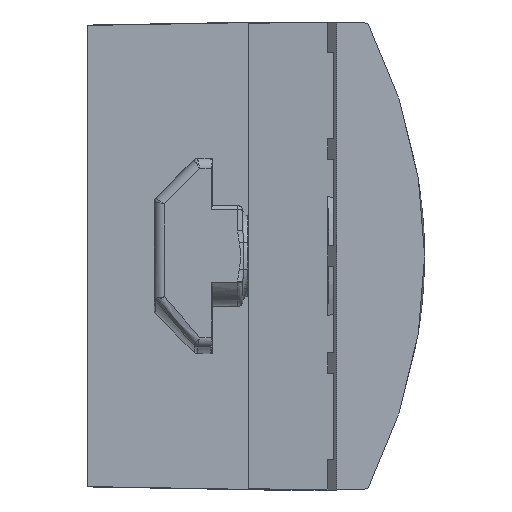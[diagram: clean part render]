
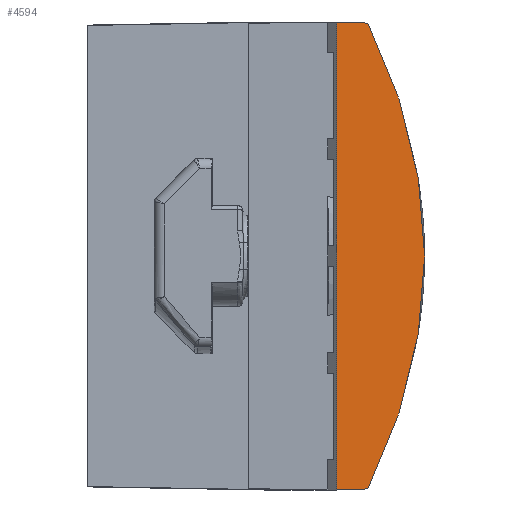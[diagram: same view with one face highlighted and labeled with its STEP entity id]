
A CAD part, front view. The second image highlights one B-rep face of the part: STEP entity #4594.
In plain terms, the highlighted planar face has unit normal (0.035, -0.999, 0).
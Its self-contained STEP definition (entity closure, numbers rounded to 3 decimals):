
#50 = LINE ( 'NONE', #12135, #14955 ) ;
#257 = EDGE_CURVE ( 'NONE', #13905, #12652, #3086, .T. ) ;
#270 = PLANE ( 'NONE',  #12380 ) ;
#907 = CARTESIAN_POINT ( 'NONE',  ( 6.871, 27.859, -23.141 ) ) ;
#1194 = VECTOR ( 'NONE', #10339, 1000. ) ;
#1588 = CARTESIAN_POINT ( 'NONE',  ( 12.5, 28.055, 3.829 ) ) ;
#2535 = DIRECTION ( 'NONE',  ( 0.999, 0.035, -0.035 ) ) ;
#2955 = B_SPLINE_CURVE_WITH_KNOTS ( 'NONE', 3,
 ( #5817, #12276, #7443, #5194, #1588, #8513 ),
 .UNSPECIFIED., .F., .F.,
 ( 4, 2, 4 ),
 ( 0., 0.5, 1. ),
 .UNSPECIFIED. ) ;
#3086 = B_SPLINE_CURVE_WITH_KNOTS ( 'NONE', 3,
 ( #12914, #12761, #10263, #10497, #5596, #907 ),
 .UNSPECIFIED., .F., .F.,
 ( 4, 2, 4 ),
 ( 0., 0.5, 1. ),
 .UNSPECIFIED. ) ;
#4343 = LINE ( 'NONE', #13788, #1194 ) ;
#4594 = ADVANCED_FACE ( 'NONE', ( #6205 ), #270, .T. ) ;
#5194 = CARTESIAN_POINT ( 'NONE',  ( 12.036, 28.039, 7.729 ) ) ;
#5596 = CARTESIAN_POINT ( 'NONE',  ( 8.748, 27.924, -19.38 ) ) ;
#5623 = CARTESIAN_POINT ( 'NONE',  ( 3.759, 27.75, -23.25 ) ) ;
#5654 = EDGE_CURVE ( 'NONE', #13308, #11908, #10900, .T. ) ;
#5817 = CARTESIAN_POINT ( 'NONE',  ( 6.871, 27.859, 23.141 ) ) ;
#5831 = EDGE_CURVE ( 'NONE', #12652, #11908, #4343, .T. ) ;
#6073 = ORIENTED_EDGE ( 'NONE', *, *, #257, .F. ) ;
#6205 = FACE_OUTER_BOUND ( 'NONE', #15343, .T. ) ;
#7144 = CARTESIAN_POINT ( 'NONE',  ( 3.759, 27.75, 20.25 ) ) ;
#7443 = CARTESIAN_POINT ( 'NONE',  ( 10.159, 27.973, 15.504 ) ) ;
#7914 = EDGE_CURVE ( 'NONE', #13308, #10672, #50, .T. ) ;
#8340 = ORIENTED_EDGE ( 'NONE', *, *, #7914, .F. ) ;
#8513 = CARTESIAN_POINT ( 'NONE',  ( 12.5, 28.055, 0. ) ) ;
#8531 = CARTESIAN_POINT ( 'NONE',  ( 12.5, 28.055, 0. ) ) ;
#8600 = CARTESIAN_POINT ( 'NONE',  ( 6.871, 27.859, 23.141 ) ) ;
#9203 = CARTESIAN_POINT ( 'NONE',  ( 6.871, 27.859, -23.141 ) ) ;
#9624 = DIRECTION ( 'NONE',  ( 0., 0., -1. ) ) ;
#10263 = CARTESIAN_POINT ( 'NONE',  ( 12.036, 28.039, -7.729 ) ) ;
#10339 = DIRECTION ( 'NONE',  ( -0.999, -0.035, -0.035 ) ) ;
#10497 = CARTESIAN_POINT ( 'NONE',  ( 10.159, 27.973, -15.504 ) ) ;
#10672 = VERTEX_POINT ( 'NONE', #8600 ) ;
#10900 = LINE ( 'NONE', #7144, #15445 ) ;
#11317 = CARTESIAN_POINT ( 'NONE',  ( 3.759, 27.75, 23.25 ) ) ;
#11908 = VERTEX_POINT ( 'NONE', #5623 ) ;
#12135 = CARTESIAN_POINT ( 'NONE',  ( 5.186, 27.8, 23.2 ) ) ;
#12206 = EDGE_CURVE ( 'NONE', #10672, #13905, #2955, .T. ) ;
#12276 = CARTESIAN_POINT ( 'NONE',  ( 8.748, 27.924, 19.38 ) ) ;
#12380 = AXIS2_PLACEMENT_3D ( 'NONE', #14348, #13154, #9624 ) ;
#12652 = VERTEX_POINT ( 'NONE', #9203 ) ;
#12761 = CARTESIAN_POINT ( 'NONE',  ( 12.5, 28.055, -3.829 ) ) ;
#12914 = CARTESIAN_POINT ( 'NONE',  ( 12.5, 28.055, 0. ) ) ;
#12990 = ORIENTED_EDGE ( 'NONE', *, *, #5654, .T. ) ;
#13154 = DIRECTION ( 'NONE',  ( 0.035, -0.999, 0. ) ) ;
#13161 = DIRECTION ( 'NONE',  ( 0., 0., -1. ) ) ;
#13308 = VERTEX_POINT ( 'NONE', #11317 ) ;
#13429 = ORIENTED_EDGE ( 'NONE', *, *, #5831, .F. ) ;
#13788 = CARTESIAN_POINT ( 'NONE',  ( 5.186, 27.8, -23.2 ) ) ;
#13905 = VERTEX_POINT ( 'NONE', #8531 ) ;
#14348 = CARTESIAN_POINT ( 'NONE',  ( 3.759, 27.75, 20.25 ) ) ;
#14955 = VECTOR ( 'NONE', #2535, 1000. ) ;
#15211 = ORIENTED_EDGE ( 'NONE', *, *, #12206, .F. ) ;
#15343 = EDGE_LOOP ( 'NONE', ( #8340, #12990, #13429, #6073, #15211 ) ) ;
#15445 = VECTOR ( 'NONE', #13161, 1000. ) ;
